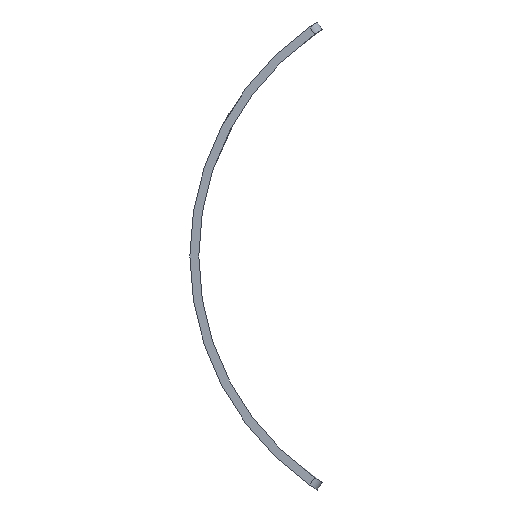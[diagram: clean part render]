
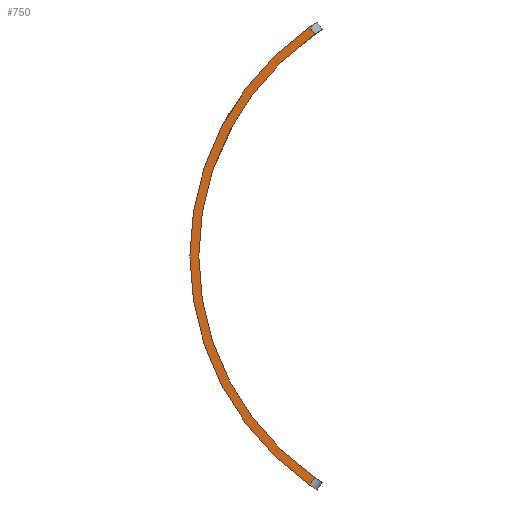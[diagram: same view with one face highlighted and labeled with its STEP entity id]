
A CAD part, front view. The second image highlights one B-rep face of the part: STEP entity #750.
In plain terms, the highlighted planar face has unit normal (0, -1, 0).
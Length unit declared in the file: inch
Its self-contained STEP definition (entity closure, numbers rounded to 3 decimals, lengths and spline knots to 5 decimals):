
#3 = AXIS2_PLACEMENT_3D ( 'NONE', #261, #20, #325 ) ;
#20 = DIRECTION ( 'NONE',  ( 0., -1., 0. ) ) ;
#28 = EDGE_CURVE ( 'NONE', #155, #520, #120, .T. ) ;
#53 = CARTESIAN_POINT ( 'NONE',  ( 102.81895, 29., -24.76351 ) ) ;
#58 = CARTESIAN_POINT ( 'NONE',  ( 119.15992, 29., -0.54247 ) ) ;
#61 = EDGE_CURVE ( 'NONE', #439, #98, #584, .T. ) ;
#66 = DIRECTION ( 'NONE',  ( 0., -1., 0. ) ) ;
#98 = VERTEX_POINT ( 'NONE', #548 ) ;
#120 = LINE ( 'NONE', #471, #191 ) ;
#125 = ORIENTED_EDGE ( 'NONE', *, *, #61, .T. ) ;
#133 = CARTESIAN_POINT ( 'NONE',  ( 120., 29., 0. ) ) ;
#155 = VERTEX_POINT ( 'NONE', #322 ) ;
#180 = CARTESIAN_POINT ( 'NONE',  ( 102.81895, 29., 24.76351 ) ) ;
#191 = VECTOR ( 'NONE', #360, 39.37008 ) ;
#206 = AXIS2_PLACEMENT_3D ( 'NONE', #133, #543, #490 ) ;
#235 = DIRECTION ( 'NONE',  ( 0., 0., -1. ) ) ;
#261 = CARTESIAN_POINT ( 'NONE',  ( 120., 29., 0. ) ) ;
#285 = ORIENTED_EDGE ( 'NONE', *, *, #28, .T. ) ;
#322 = CARTESIAN_POINT ( 'NONE',  ( 102.2762, 29., -25.60403 ) ) ;
#325 = DIRECTION ( 'NONE',  ( 0., 0., -1. ) ) ;
#350 = CIRCLE ( 'NONE', #3, 31.14 ) ;
#360 = DIRECTION ( 'NONE',  ( 0.542, 0., 0.84 ) ) ;
#422 = FACE_OUTER_BOUND ( 'NONE', #483, .T. ) ;
#439 = VERTEX_POINT ( 'NONE', #180 ) ;
#452 = VECTOR ( 'NONE', #693, 39.37008 ) ;
#469 = AXIS2_PLACEMENT_3D ( 'NONE', #646, #66, #235 ) ;
#471 = CARTESIAN_POINT ( 'NONE',  ( 119.15992, 29., 0.54247 ) ) ;
#483 = EDGE_LOOP ( 'NONE', ( #735, #285, #570, #125 ) ) ;
#488 = EDGE_CURVE ( 'NONE', #439, #520, #529, .T. ) ;
#490 = DIRECTION ( 'NONE',  ( 0., 0., 1. ) ) ;
#520 = VERTEX_POINT ( 'NONE', #53 ) ;
#529 = CIRCLE ( 'NONE', #469, 30.14 ) ;
#543 = DIRECTION ( 'NONE',  ( 0., 1., 0. ) ) ;
#548 = CARTESIAN_POINT ( 'NONE',  ( 102.2762, 29., 25.60403 ) ) ;
#570 = ORIENTED_EDGE ( 'NONE', *, *, #488, .F. ) ;
#584 = LINE ( 'NONE', #58, #452 ) ;
#631 = EDGE_CURVE ( 'NONE', #98, #155, #350, .T. ) ;
#643 = PLANE ( 'NONE',  #206 ) ;
#646 = CARTESIAN_POINT ( 'NONE',  ( 120., 29., 0. ) ) ;
#693 = DIRECTION ( 'NONE',  ( -0.542, 0., 0.84 ) ) ;
#735 = ORIENTED_EDGE ( 'NONE', *, *, #631, .T. ) ;
#750 = ADVANCED_FACE ( 'NONE', ( #422 ), #643, .F. ) ;
